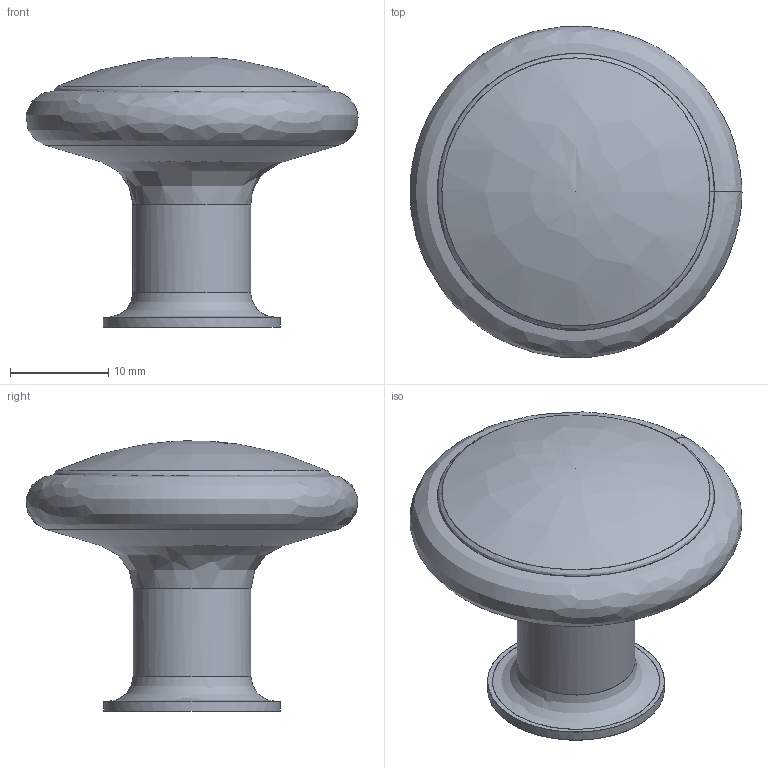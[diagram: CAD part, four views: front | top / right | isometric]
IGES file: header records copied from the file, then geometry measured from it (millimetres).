
Start section: C
Global section: file name: 0391-34.igs; native system: By Siemens PLM Incorporated; preprocessor: XPlus GENERIC/IGES 16.0.42; author: Author; organization: Title; date: 20231211.121055; units: millimetre
Bounding box: 33.77 x 33.74 x 27.5 mm (x, y, z)
Surface area: 6043.3 mm2 (no closed solid volume)
Topology: 0 solids, 0 shells, 50 faces, 266 edges, 264 vertices
Faces by surface type: bspline 50
